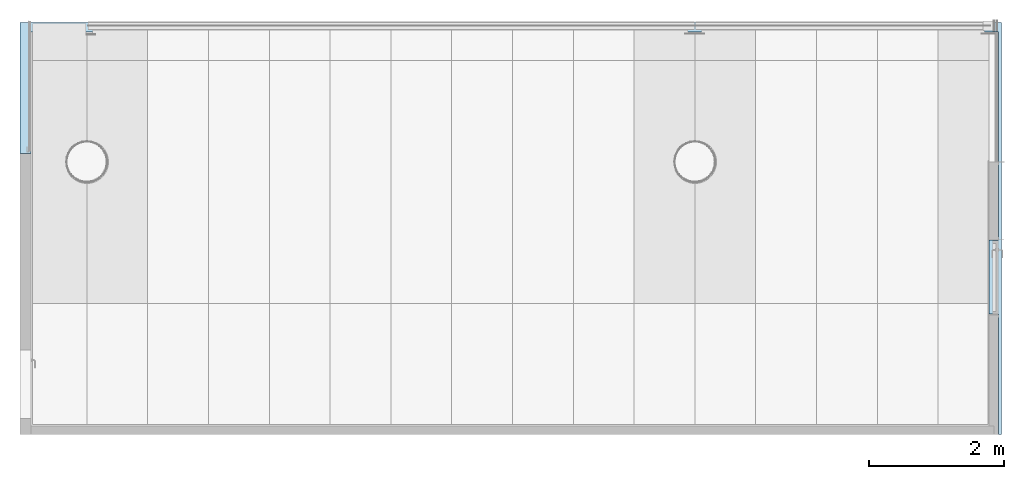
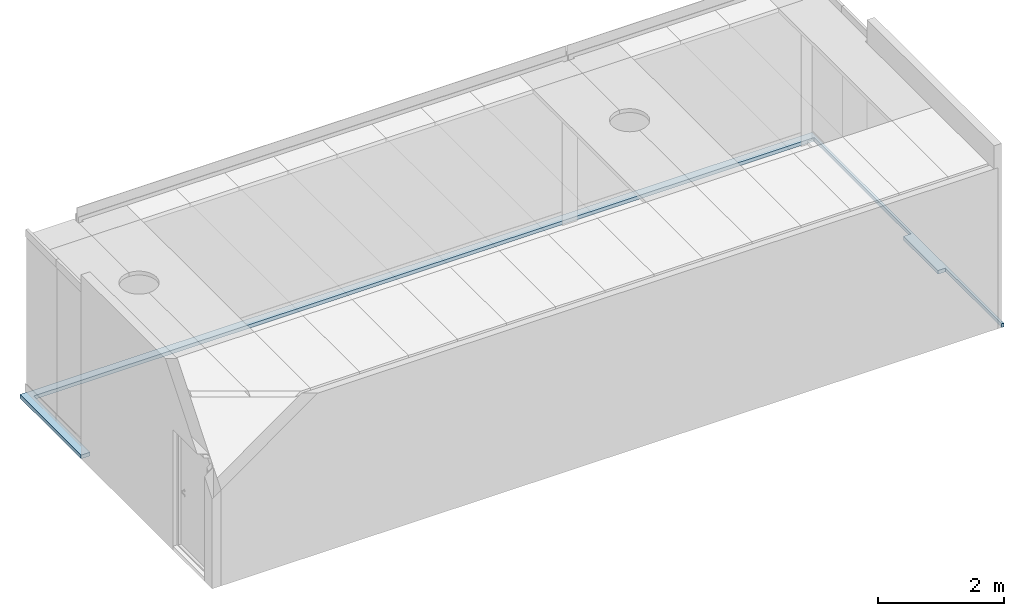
# One storey, part 8 of 12: 1 slab.
"""IFC2X3 building model written with IfcOpenShell, lengths in millimetres."""

from ifc_helpers import new_model, entity, si_unit, converted_unit, derived_unit, direction, frame, origin_with_axes, place, context, subcontext, project, spatial, faceted_brep, material, layer, layer_set, type_object, element, save


model = new_model("IFC2X3")

# Units and contexts
model_context = context("Model", 3, precision=0.01, world=frame((0.0, 4.29681676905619e-09, 0.0)), true_north=direction((6.12323399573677e-17, 1.0)))
plan_context = context("Plan", 3, precision=0.01, world=frame((0.0, 4.29681676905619e-09, 0.0)), true_north=direction((6.12323399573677e-17, 1.0)))
body_context = subcontext(model_context, "Body", "Model", "MODEL_VIEW")
ifc_project = project(units=[converted_unit("PLANEANGLEUNIT", "DEGREE", entity("IfcPositiveLengthMeasure", 0.0174532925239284), si_unit("PLANEANGLEUNIT", "RADIAN"), dimensions=[0, 0, 0, 0, 0, 0, 0]), si_unit("AREAUNIT", "SQUARE_METRE"), si_unit("LENGTHUNIT", "METRE", prefix="MILLI"), si_unit("MASSUNIT", "GRAM", prefix="KILO"), si_unit("POWERUNIT", "WATT"), si_unit("PRESSUREUNIT", "PASCAL", prefix="KILO"), si_unit("FORCEUNIT", "NEWTON", prefix="KILO"), si_unit("ELECTRICVOLTAGEUNIT", "VOLT"), si_unit("ELECTRICCURRENTUNIT", "AMPERE"), si_unit("THERMODYNAMICTEMPERATUREUNIT", "DEGREE_CELSIUS"), si_unit("TIMEUNIT", "SECOND"), si_unit("VOLUMEUNIT", "CUBIC_METRE"), derived_unit("LINEARVELOCITYUNIT", [(si_unit("LENGTHUNIT", "METRE"), 1), (si_unit("TIMEUNIT", "SECOND"), -1)]), derived_unit("VOLUMETRICFLOWRATEUNIT", [(si_unit("VOLUMEUNIT", "CUBIC_METRE"), 1), (si_unit("TIMEUNIT", "SECOND"), -1)]), derived_unit("THERMALTRANSMITTANCEUNIT", [(si_unit("POWERUNIT", "WATT"), 1), (si_unit("THERMODYNAMICTEMPERATUREUNIT", "KELVIN"), -1), (si_unit("AREAUNIT", "SQUARE_METRE"), -1)]), derived_unit("SOUNDPRESSUREUNIT", [(si_unit("PRESSUREUNIT", "PASCAL"), 1)])], contexts=[model_context, plan_context])

# Site, building, storey
site_placement = place(None, origin_with_axes())
site = spatial("IfcSite", under=ifc_project, at=site_placement, Name="ENGM", CompositionType="ELEMENT")
building_placement = place(site_placement, origin_with_axes())
building = spatial("IfcBuilding", under=site, at=building_placement, Name="TH", CompositionType="ELEMENT")
storey_placement = place(building_placement, frame((0.0, 0.0, 210200.0), z_axis=(0.0, 0.0, 1.0), x_axis=(1.0, 0.0, 0.0)))
storey = spatial("IfcBuildingStorey", under=building, at=storey_placement, Name="Nivå F - 0,7 m", CompositionType="ELEMENT", Elevation=210200.0)

# Slab
ifc_material_1 = material(Name="GU-K01_Gulvfliser i Publikumsareal")
ifc_layer_1 = layer(ifc_material_1, 9.0)
ifc_material_2 = material(Name="Concrete, Sand/Cement Screed")
ifc_layer_2 = layer(ifc_material_2, 6.0)
ifc_material_3 = material(Name="T2_Mørtel")
ifc_layer_3 = layer(ifc_material_3, 55.0)
ifc_layer_set = layer_set([ifc_layer_1, ifc_layer_2, ifc_layer_3], Name="Floor:A254 - GU-K01 - Keramisk flis publikumsarealer")
slab_type = type_object("IfcSlabType", Name="Floor:A254 - GU-K01 - Keramisk flis publikumsarealer", PredefinedType="FLOOR", material=ifc_layer_set)
slab_placement = place(storey_placement, frame((1031490.0, 454665.0, -70.0), z_axis=(0.0, 0.0, 1.0), x_axis=(1.0, 0.0, 0.0)))
element("IfcSlab", 1, at=slab_placement, inside=storey, type_object=slab_type, Name="Floor:A254 - GU-K01 - Keramisk flis publikumsarealer", ObjectType="Floor:A254 - GU-K01 - Keramisk flis publikumsarealer", PredefinedType="FLOOR", context=body_context, shape_type="Brep", body=[
    faceted_brep([(99004.7998416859, 7697.50060927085, 70.0), (99004.7998416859, 7697.50060927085, 1.59161572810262e-11), (99004.7998416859, 9479.99593510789, 1.59161572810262e-11), (99004.7998416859, 9479.99593510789, 70.0), (98864.7998420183, 9479.99593510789, 1.59161572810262e-11), (98864.7998420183, 9479.99593510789, 70.0), (98864.7998420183, 10579.9959351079, 1.59161572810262e-11), (98864.7998420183, 10579.9959351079, 70.0), (99004.7998416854, 10579.9959351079, 1.59161572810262e-11), (99004.7998416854, 10579.9959351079, 70.0), (99004.7998416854, 13655.0006961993, 1.59161572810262e-11), (99004.7998416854, 13655.0006961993, 70.0), (84685.0000000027, 13655.0006961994, 1.59161572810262e-11), (84685.0000000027, 13655.0006961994, 70.0), (84685.0000000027, 11860.0006092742, 1.59161572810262e-11), (84685.0000000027, 11860.0006092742, 70.0), (84520.0000000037, 11860.0006092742, 1.59161572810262e-11), (84520.0000000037, 11860.0006092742, 70.0), (84520.0000000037, 13801.4999999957, 70.0000000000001), (99047.7998418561, 13801.4999999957, 70.0000000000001), (99047.7998418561, 7697.50000000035, 70.0), (99047.7998418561, 7697.50000000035, 1.59161572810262e-11), (99047.7998418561, 13801.4999999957, 1.58877355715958e-11), (84520.0000000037, 13801.4999999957, 1.58877355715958e-11)], [[[0, 1, 2, 3]], [[3, 2, 4, 5]], [[5, 4, 6, 7]], [[7, 6, 8, 9]], [[9, 8, 10, 11]], [[11, 10, 12, 13]], [[13, 12, 14, 15]], [[16, 17, 15, 14]], [[17, 18, 19, 20, 0, 3, 5, 7, 9, 11, 13, 15]], [[1, 21, 22, 23, 16, 14, 12, 10, 8, 6, 4, 2]], [[20, 19, 22, 21]], [[19, 18, 23, 22]], [[18, 17, 16, 23]], [[21, 1, 0, 20]]], orient=[[False], [False], [False], [False], [False], [False], [False], [False], [False], [False], [False], [False], [False], [False]]),
])

save(model, "model.ifc")
